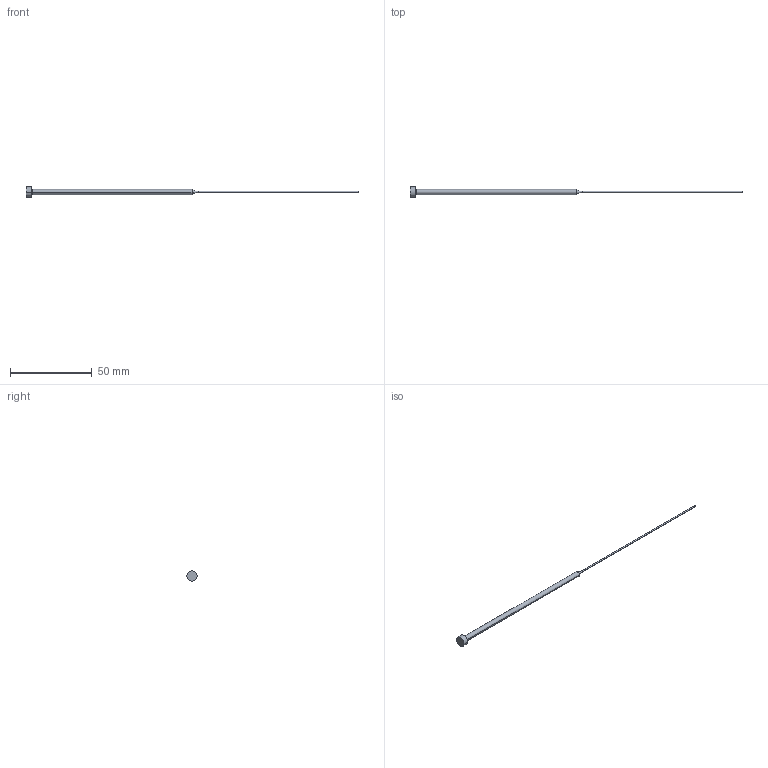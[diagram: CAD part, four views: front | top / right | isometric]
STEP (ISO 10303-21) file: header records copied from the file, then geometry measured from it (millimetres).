
FILE_DESCRIPTION (( 'STEP AP203' ), '1' );
FILE_NAME ('SP3-84.step', '2014-02-28T14:15:04', ( '' ), ( '' ), 'SwSTEP 2.0', 'SolidWorks 2009', '' );
FILE_SCHEMA (( 'CONFIG_CONTROL_DESIGN' ));
Length unit declared in the file: inch
Products named in the file (1): SP3-84
Bounding box: 203.2 x 6.35 x 6.35 mm (x, y, z)
Volume: 936.5 mm3; surface area: 1357.5 mm2
Topology: 1 solids, 1 shells, 13 faces, 24 edges, 14 vertices
Faces by surface type: cylinder 6, torus 4, plane 3
Entity records: 407 total; most frequent: DIRECTION 70, CARTESIAN_POINT 52, ORIENTED_EDGE 48, AXIS2_PLACEMENT_3D 32, EDGE_CURVE 24, CIRCLE 18, EDGE_LOOP 14, VERTEX_POINT 14
